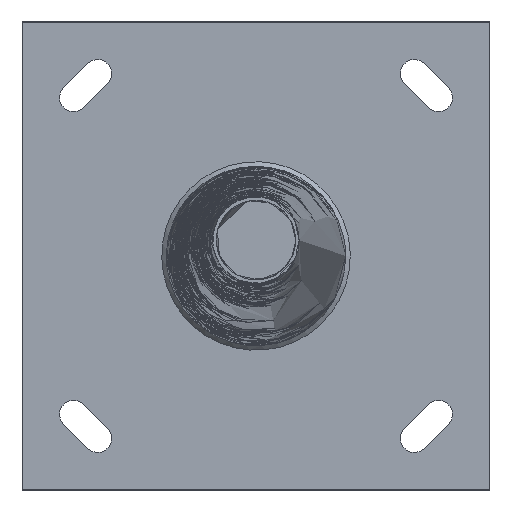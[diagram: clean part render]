
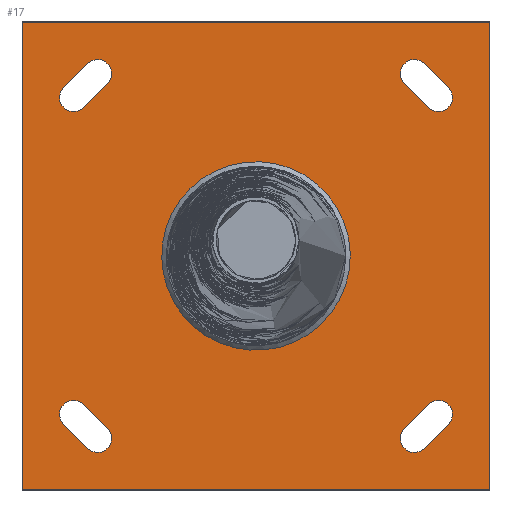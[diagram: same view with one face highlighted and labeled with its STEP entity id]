
A CAD part, top view. The second image highlights one B-rep face of the part: STEP entity #17.
In plain terms, the highlighted planar face has unit normal (0, 0, 1).
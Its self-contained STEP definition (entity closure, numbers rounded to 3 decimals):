
#17 = ADVANCED_FACE('',(#18,#57,#91,#127,#163,#199),#235,.T.);
#18 = FACE_BOUND('',#19,.T.);
#19 = EDGE_LOOP('',(#20));
#20 = ORIENTED_EDGE('',*,*,#21,.T.);
#21 = EDGE_CURVE('',#22,#22,#24,.T.);
#22 = VERTEX_POINT('',#23);
#23 = CARTESIAN_POINT('',(82.974,0.,5.));
#24 = B_SPLINE_CURVE_WITH_KNOTS('',11,(#25,#26,#27,#28,#29,#30,#31,#32,
    #33,#34,#35,#36,#37,#38,#39,#40,#41,#42,#43,#44,#45,#46,#47,#48,#49,
    #50,#51,#52,#53,#54,#55,#56),.UNSPECIFIED.,.T.,.F.,(12,10,10,12),(
    0.,124.053,248.105,496.211),
  .UNSPECIFIED.);
#25 = CARTESIAN_POINT('',(82.974,0.,5.));
#26 = CARTESIAN_POINT('',(82.974,-11.849,5.));
#27 = CARTESIAN_POINT('',(81.113,-23.698,5.));
#28 = CARTESIAN_POINT('',(77.391,-35.22,5.
    ));
#29 = CARTESIAN_POINT('',(71.871,-46.099,5.
    ));
#30 = CARTESIAN_POINT('',(64.681,-56.005,5.
    ));
#31 = CARTESIAN_POINT('',(56.01,-64.685,5.
    ));
#32 = CARTESIAN_POINT('',(46.095,-71.869,5.
    ));
#33 = CARTESIAN_POINT('',(35.221,-77.392,5.)
  );
#34 = CARTESIAN_POINT('',(23.697,-81.113,5.)
  );
#35 = CARTESIAN_POINT('',(11.849,-82.974,5.));
#36 = CARTESIAN_POINT('',(-11.849,-82.974,5.));
#37 = CARTESIAN_POINT('',(-23.698,-81.113,5.));
#38 = CARTESIAN_POINT('',(-35.222,-77.391,5.
    ));
#39 = CARTESIAN_POINT('',(-46.096,-71.871,5.
    ));
#40 = CARTESIAN_POINT('',(-56.01,-64.681,5.
    ));
#41 = CARTESIAN_POINT('',(-64.681,-56.009,5.
    ));
#42 = CARTESIAN_POINT('',(-71.871,-46.095,5.
    ));
#43 = CARTESIAN_POINT('',(-77.391,-35.221,5.
    ));
#44 = CARTESIAN_POINT('',(-81.113,-23.697,5.));
#45 = CARTESIAN_POINT('',(-82.974,-11.849,5.));
#46 = CARTESIAN_POINT('',(-82.974,23.698,5.));
#47 = CARTESIAN_POINT('',(-75.53,47.395,5.)
  );
#48 = CARTESIAN_POINT('',(-60.64,68.494,5.
    ));
#49 = CARTESIAN_POINT('',(-39.326,84.394,5.
    ));
#50 = CARTESIAN_POINT('',(-13.629,92.959,5.
    ));
#51 = CARTESIAN_POINT('',(13.629,92.958,5.)
  );
#52 = CARTESIAN_POINT('',(39.327,84.394,5.
    ));
#53 = CARTESIAN_POINT('',(60.64,68.494,5.
    ));
#54 = CARTESIAN_POINT('',(75.53,47.394,5.)
  );
#55 = CARTESIAN_POINT('',(82.974,23.697,5.));
#56 = CARTESIAN_POINT('',(82.974,0.,5.));
#57 = FACE_BOUND('',#58,.T.);
#58 = EDGE_LOOP('',(#59,#69,#77,#85));
#59 = ORIENTED_EDGE('',*,*,#60,.T.);
#60 = EDGE_CURVE('',#61,#63,#65,.T.);
#61 = VERTEX_POINT('',#62);
#62 = CARTESIAN_POINT('',(-206.,206.,5.));
#63 = VERTEX_POINT('',#64);
#64 = CARTESIAN_POINT('',(-206.,-206.,5.));
#65 = LINE('',#66,#67);
#66 = CARTESIAN_POINT('',(-206.,206.,5.));
#67 = VECTOR('',#68,1.);
#68 = DIRECTION('',(0.,-1.,0.));
#69 = ORIENTED_EDGE('',*,*,#70,.T.);
#70 = EDGE_CURVE('',#63,#71,#73,.T.);
#71 = VERTEX_POINT('',#72);
#72 = CARTESIAN_POINT('',(206.,-206.,5.));
#73 = LINE('',#74,#75);
#74 = CARTESIAN_POINT('',(-206.,-206.,5.));
#75 = VECTOR('',#76,1.);
#76 = DIRECTION('',(1.,0.,0.));
#77 = ORIENTED_EDGE('',*,*,#78,.T.);
#78 = EDGE_CURVE('',#71,#79,#81,.T.);
#79 = VERTEX_POINT('',#80);
#80 = CARTESIAN_POINT('',(206.,206.,5.));
#81 = LINE('',#82,#83);
#82 = CARTESIAN_POINT('',(206.,-206.,5.));
#83 = VECTOR('',#84,1.);
#84 = DIRECTION('',(0.,1.,0.));
#85 = ORIENTED_EDGE('',*,*,#86,.T.);
#86 = EDGE_CURVE('',#79,#61,#87,.T.);
#87 = LINE('',#88,#89);
#88 = CARTESIAN_POINT('',(206.,206.,5.));
#89 = VECTOR('',#90,1.);
#90 = DIRECTION('',(-1.,0.,0.));
#91 = FACE_BOUND('',#92,.T.);
#92 = EDGE_LOOP('',(#93,#104,#112,#121));
#93 = ORIENTED_EDGE('',*,*,#94,.F.);
#94 = EDGE_CURVE('',#95,#97,#99,.T.);
#95 = VERTEX_POINT('',#96);
#96 = CARTESIAN_POINT('',(-151.768,-130.555,5.));
#97 = VERTEX_POINT('',#98);
#98 = CARTESIAN_POINT('',(-169.445,-148.232,5.));
#99 = CIRCLE('',#100,12.5);
#100 = AXIS2_PLACEMENT_3D('',#101,#102,#103);
#101 = CARTESIAN_POINT('',(-160.607,-139.393,5.));
#102 = DIRECTION('',(0.,-0.,1.));
#103 = DIRECTION('',(0.,1.,0.));
#104 = ORIENTED_EDGE('',*,*,#105,.T.);
#105 = EDGE_CURVE('',#95,#106,#108,.T.);
#106 = VERTEX_POINT('',#107);
#107 = CARTESIAN_POINT('',(-130.555,-151.768,5.));
#108 = LINE('',#109,#110);
#109 = CARTESIAN_POINT('',(-151.768,-130.555,5.));
#110 = VECTOR('',#111,1.);
#111 = DIRECTION('',(0.707,-0.707,0.));
#112 = ORIENTED_EDGE('',*,*,#113,.F.);
#113 = EDGE_CURVE('',#114,#106,#116,.T.);
#114 = VERTEX_POINT('',#115);
#115 = CARTESIAN_POINT('',(-148.232,-169.445,5.));
#116 = CIRCLE('',#117,12.5);
#117 = AXIS2_PLACEMENT_3D('',#118,#119,#120);
#118 = CARTESIAN_POINT('',(-139.393,-160.607,5.));
#119 = DIRECTION('',(0.,-0.,1.));
#120 = DIRECTION('',(0.,1.,0.));
#121 = ORIENTED_EDGE('',*,*,#122,.F.);
#122 = EDGE_CURVE('',#97,#114,#123,.T.);
#123 = LINE('',#124,#125);
#124 = CARTESIAN_POINT('',(-169.445,-148.232,5.));
#125 = VECTOR('',#126,1.);
#126 = DIRECTION('',(0.707,-0.707,0.));
#127 = FACE_BOUND('',#128,.T.);
#128 = EDGE_LOOP('',(#129,#140,#148,#157));
#129 = ORIENTED_EDGE('',*,*,#130,.F.);
#130 = EDGE_CURVE('',#131,#133,#135,.T.);
#131 = VERTEX_POINT('',#132);
#132 = CARTESIAN_POINT('',(130.555,-151.768,5.));
#133 = VERTEX_POINT('',#134);
#134 = CARTESIAN_POINT('',(148.232,-169.445,5.));
#135 = CIRCLE('',#136,12.5);
#136 = AXIS2_PLACEMENT_3D('',#137,#138,#139);
#137 = CARTESIAN_POINT('',(139.393,-160.607,5.));
#138 = DIRECTION('',(0.,0.,1.));
#139 = DIRECTION('',(-1.,0.,0.));
#140 = ORIENTED_EDGE('',*,*,#141,.T.);
#141 = EDGE_CURVE('',#131,#142,#144,.T.);
#142 = VERTEX_POINT('',#143);
#143 = CARTESIAN_POINT('',(151.768,-130.555,5.));
#144 = LINE('',#145,#146);
#145 = CARTESIAN_POINT('',(130.555,-151.768,5.));
#146 = VECTOR('',#147,1.);
#147 = DIRECTION('',(0.707,0.707,0.));
#148 = ORIENTED_EDGE('',*,*,#149,.F.);
#149 = EDGE_CURVE('',#150,#142,#152,.T.);
#150 = VERTEX_POINT('',#151);
#151 = CARTESIAN_POINT('',(169.445,-148.232,5.));
#152 = CIRCLE('',#153,12.5);
#153 = AXIS2_PLACEMENT_3D('',#154,#155,#156);
#154 = CARTESIAN_POINT('',(160.607,-139.393,5.));
#155 = DIRECTION('',(0.,0.,1.));
#156 = DIRECTION('',(-1.,0.,0.));
#157 = ORIENTED_EDGE('',*,*,#158,.F.);
#158 = EDGE_CURVE('',#133,#150,#159,.T.);
#159 = LINE('',#160,#161);
#160 = CARTESIAN_POINT('',(148.232,-169.445,5.));
#161 = VECTOR('',#162,1.);
#162 = DIRECTION('',(0.707,0.707,0.));
#163 = FACE_BOUND('',#164,.T.);
#164 = EDGE_LOOP('',(#165,#176,#184,#193));
#165 = ORIENTED_EDGE('',*,*,#166,.F.);
#166 = EDGE_CURVE('',#167,#169,#171,.T.);
#167 = VERTEX_POINT('',#168);
#168 = CARTESIAN_POINT('',(-130.555,151.768,5.));
#169 = VERTEX_POINT('',#170);
#170 = CARTESIAN_POINT('',(-148.232,169.445,5.));
#171 = CIRCLE('',#172,12.5);
#172 = AXIS2_PLACEMENT_3D('',#173,#174,#175);
#173 = CARTESIAN_POINT('',(-139.393,160.607,5.));
#174 = DIRECTION('',(0.,0.,1.));
#175 = DIRECTION('',(1.,0.,0.));
#176 = ORIENTED_EDGE('',*,*,#177,.T.);
#177 = EDGE_CURVE('',#167,#178,#180,.T.);
#178 = VERTEX_POINT('',#179);
#179 = CARTESIAN_POINT('',(-151.768,130.555,5.));
#180 = LINE('',#181,#182);
#181 = CARTESIAN_POINT('',(-130.555,151.768,5.));
#182 = VECTOR('',#183,1.);
#183 = DIRECTION('',(-0.707,-0.707,0.));
#184 = ORIENTED_EDGE('',*,*,#185,.F.);
#185 = EDGE_CURVE('',#186,#178,#188,.T.);
#186 = VERTEX_POINT('',#187);
#187 = CARTESIAN_POINT('',(-169.445,148.232,5.));
#188 = CIRCLE('',#189,12.5);
#189 = AXIS2_PLACEMENT_3D('',#190,#191,#192);
#190 = CARTESIAN_POINT('',(-160.607,139.393,5.));
#191 = DIRECTION('',(0.,0.,1.));
#192 = DIRECTION('',(1.,0.,0.));
#193 = ORIENTED_EDGE('',*,*,#194,.F.);
#194 = EDGE_CURVE('',#169,#186,#195,.T.);
#195 = LINE('',#196,#197);
#196 = CARTESIAN_POINT('',(-148.232,169.445,5.));
#197 = VECTOR('',#198,1.);
#198 = DIRECTION('',(-0.707,-0.707,0.));
#199 = FACE_BOUND('',#200,.T.);
#200 = EDGE_LOOP('',(#201,#212,#220,#229));
#201 = ORIENTED_EDGE('',*,*,#202,.F.);
#202 = EDGE_CURVE('',#203,#205,#207,.T.);
#203 = VERTEX_POINT('',#204);
#204 = CARTESIAN_POINT('',(151.768,130.555,5.));
#205 = VERTEX_POINT('',#206);
#206 = CARTESIAN_POINT('',(169.445,148.232,5.));
#207 = CIRCLE('',#208,12.5);
#208 = AXIS2_PLACEMENT_3D('',#209,#210,#211);
#209 = CARTESIAN_POINT('',(160.607,139.393,5.));
#210 = DIRECTION('',(0.,0.,1.));
#211 = DIRECTION('',(0.,-1.,0.));
#212 = ORIENTED_EDGE('',*,*,#213,.T.);
#213 = EDGE_CURVE('',#203,#214,#216,.T.);
#214 = VERTEX_POINT('',#215);
#215 = CARTESIAN_POINT('',(130.555,151.768,5.));
#216 = LINE('',#217,#218);
#217 = CARTESIAN_POINT('',(151.768,130.555,5.));
#218 = VECTOR('',#219,1.);
#219 = DIRECTION('',(-0.707,0.707,0.));
#220 = ORIENTED_EDGE('',*,*,#221,.F.);
#221 = EDGE_CURVE('',#222,#214,#224,.T.);
#222 = VERTEX_POINT('',#223);
#223 = CARTESIAN_POINT('',(148.232,169.445,5.));
#224 = CIRCLE('',#225,12.5);
#225 = AXIS2_PLACEMENT_3D('',#226,#227,#228);
#226 = CARTESIAN_POINT('',(139.393,160.607,5.));
#227 = DIRECTION('',(0.,0.,1.));
#228 = DIRECTION('',(0.,-1.,0.));
#229 = ORIENTED_EDGE('',*,*,#230,.F.);
#230 = EDGE_CURVE('',#205,#222,#231,.T.);
#231 = LINE('',#232,#233);
#232 = CARTESIAN_POINT('',(169.445,148.232,5.));
#233 = VECTOR('',#234,1.);
#234 = DIRECTION('',(-0.707,0.707,0.));
#235 = PLANE('',#236);
#236 = AXIS2_PLACEMENT_3D('',#237,#238,#239);
#237 = CARTESIAN_POINT('',(0.,0.,5.));
#238 = DIRECTION('',(0.,0.,1.));
#239 = DIRECTION('',(1.,0.,0.));
